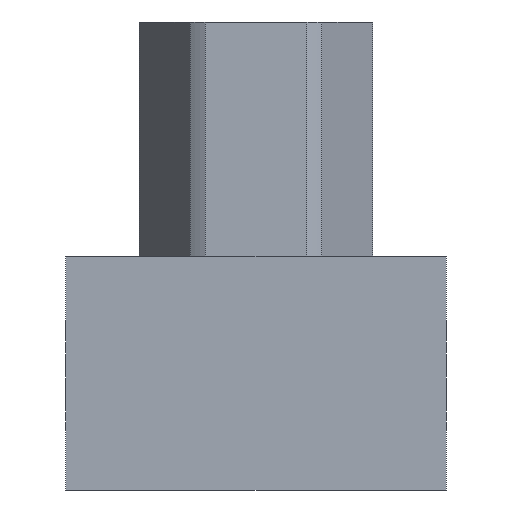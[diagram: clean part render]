
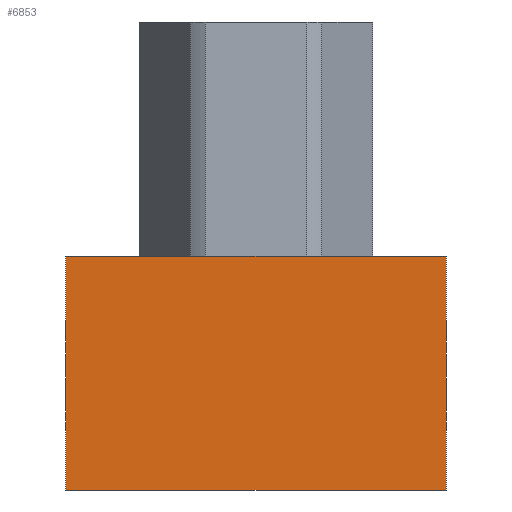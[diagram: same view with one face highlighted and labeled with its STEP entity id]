
A CAD part, front view. The second image highlights one B-rep face of the part: STEP entity #6853.
In plain terms, the highlighted planar face has unit normal (0, -1, 0).
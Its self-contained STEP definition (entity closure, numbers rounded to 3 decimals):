
#6814=CARTESIAN_POINT('',(-32.5,-20.0,20.0));
#6815=DIRECTION('',(0.0,-1.0,0.0));
#6816=DIRECTION('',(0.0,0.0,-1.0));
#6817=AXIS2_PLACEMENT_3D('',#6814,#6815,#6816);
#6818=PLANE('',#6817);
#6819=CARTESIAN_POINT('',(-32.5,-20.0,-20.0));
#6820=VERTEX_POINT('',#6819);
#6821=CARTESIAN_POINT('',(32.5,-20.0,-20.0));
#6822=VERTEX_POINT('',#6821);
#6823=CARTESIAN_POINT('',(-32.5,-20.0,-20.0));
#6824=DIRECTION('',(1.0,0.0,0.0));
#6825=VECTOR('',#6824,65.0);
#6826=LINE('',#6823,#6825);
#6827=EDGE_CURVE('',#6820,#6822,#6826,.T.);
#6828=ORIENTED_EDGE('',*,*,#6827,.T.);
#6829=CARTESIAN_POINT('',(32.5,-20.0,20.0));
#6830=VERTEX_POINT('',#6829);
#6831=CARTESIAN_POINT('',(32.5,-20.0,20.0));
#6832=DIRECTION('',(0.0,0.0,-1.0));
#6833=VECTOR('',#6832,40.0);
#6834=LINE('',#6831,#6833);
#6835=EDGE_CURVE('',#6830,#6822,#6834,.T.);
#6836=ORIENTED_EDGE('',*,*,#6835,.F.);
#6837=CARTESIAN_POINT('',(-32.5,-20.0,20.0));
#6838=VERTEX_POINT('',#6837);
#6839=CARTESIAN_POINT('',(32.5,-20.0,20.0));
#6840=DIRECTION('',(-1.0,0.0,0.0));
#6841=VECTOR('',#6840,65.0);
#6842=LINE('',#6839,#6841);
#6843=EDGE_CURVE('',#6830,#6838,#6842,.T.);
#6844=ORIENTED_EDGE('',*,*,#6843,.T.);
#6845=CARTESIAN_POINT('',(-32.5,-20.0,20.0));
#6846=DIRECTION('',(0.0,0.0,-1.0));
#6847=VECTOR('',#6846,40.0);
#6848=LINE('',#6845,#6847);
#6849=EDGE_CURVE('',#6838,#6820,#6848,.T.);
#6850=ORIENTED_EDGE('',*,*,#6849,.T.);
#6851=EDGE_LOOP('',(#6828,#6836,#6844,#6850));
#6852=FACE_OUTER_BOUND('',#6851,.T.);
#6853=ADVANCED_FACE('',(#6852),#6818,.T.);
